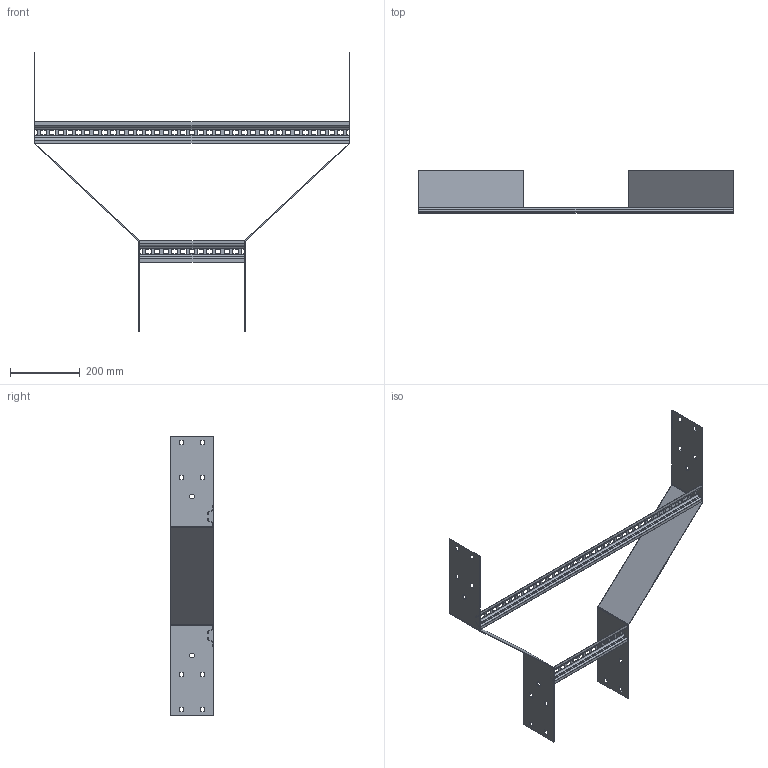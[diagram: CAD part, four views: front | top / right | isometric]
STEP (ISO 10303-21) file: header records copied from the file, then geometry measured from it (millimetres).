
FILE_DESCRIPTION (( 'STEP AP203' ), '1' );
FILE_NAME ('N3 SR 900300.STEP', '2024-08-27T20:30:54', ( '' ), ( '' ), 'SwSTEP 2.0', 'SolidWorks 2023', '' );
FILE_SCHEMA (( 'CONFIG_CONTROL_DESIGN' ));
Length unit declared in the file: millimetre
Products named in the file (4): Ladder Rung_Ladder Rung -  300mm; Ladder Rung_Ladder Rung -  900mm; N3 SR 900300; N3 Reducer side plate_SR300x900
Assembly tree (4 placements, depth 2):
  N3 SR 900300
    N3 Reducer side plate_SR300x900  x2
    Ladder Rung_Ladder Rung -  300mm
    Ladder Rung_Ladder Rung -  900mm
Bounding box: 904 x 124 x 800 mm (x, y, z)
Volume: 583557.4 mm3; surface area: 634575.8 mm2
Topology: 4 solids, 4 shells, 392 faces, 1056 edges, 672 vertices
Faces by surface type: plane 360, cylinder 32
Entity records: 10886 total; most frequent: CARTESIAN_POINT 1821, ORIENTED_EDGE 1808, DIRECTION 1634, EDGE_CURVE 904, VECTOR 856, LINE 856, VERTEX_POINT 576, EDGE_LOOP 446
